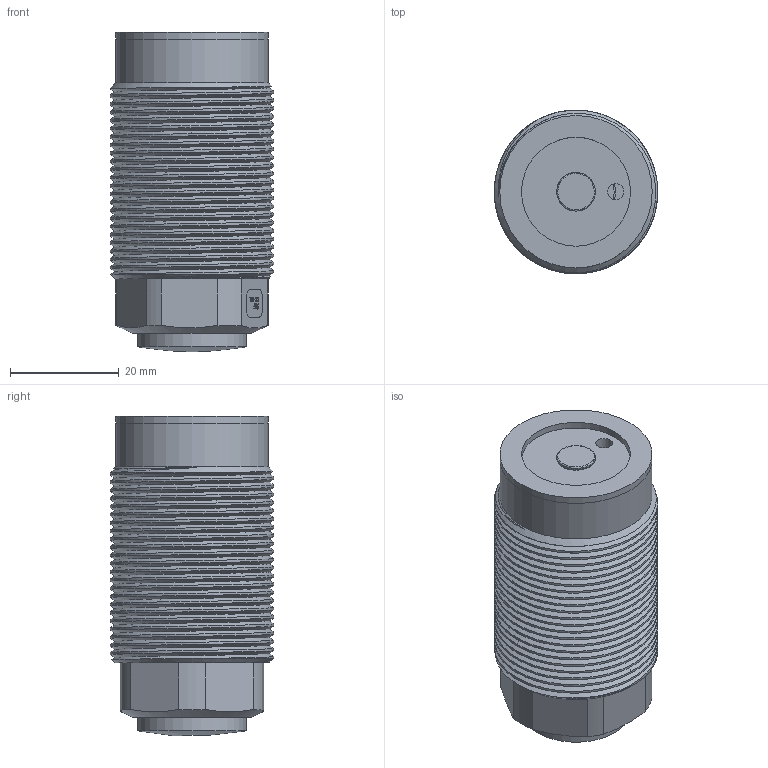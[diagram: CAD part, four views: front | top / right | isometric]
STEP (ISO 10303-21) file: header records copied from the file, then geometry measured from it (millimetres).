
FILE_DESCRIPTION(/* description */ (''),/* implementation_level */ '2;1');
FILE_NAME(/* name */ 'CTC-20A.stp',/* time_stamp */ '2022-04-28T11:04:04+08:00',/* author */ (''),/* organization */ (''),/* preprocessor_version */ 'ST-DEVELOPER v16.7',/* originating_system */ 'SIEMENS PLM Software NX 12.0',/* authorisation */ '');
FILE_SCHEMA (('AUTOMOTIVE_DESIGN { 1 0 10303 214 3 1 1 1 }'));
Length unit declared in the file: millimetre
Products named in the file (1): CTC-20A
Bounding box: 30 x 30 x 58.64 mm (x, y, z)
Volume: 30660.2 mm3; surface area: 20595.2 mm2
Topology: 5 solids, 5 shells, 250 faces, 652 edges, 436 vertices
Faces by surface type: plane 155, extrusion 48, cylinder 27, bspline 14, cone 3, torus 2, sphere 1
Full cylindrical faces by diameter (mm): 3 x1, 3.995 x1, 6.5 x1, 7.1 x1, 8.6 x1, 14 x1, 14.5 x1, 20 x3, 23 x2, 24 x2, 28 x2
Entity records: 14389 total; most frequent: CARTESIAN_POINT 7286, ORIENTED_EDGE 1244, DIRECTION 962, EDGE_CURVE 622, VECTOR 472, VERTEX_POINT 429, LINE 424, EDGE_LOOP 305
